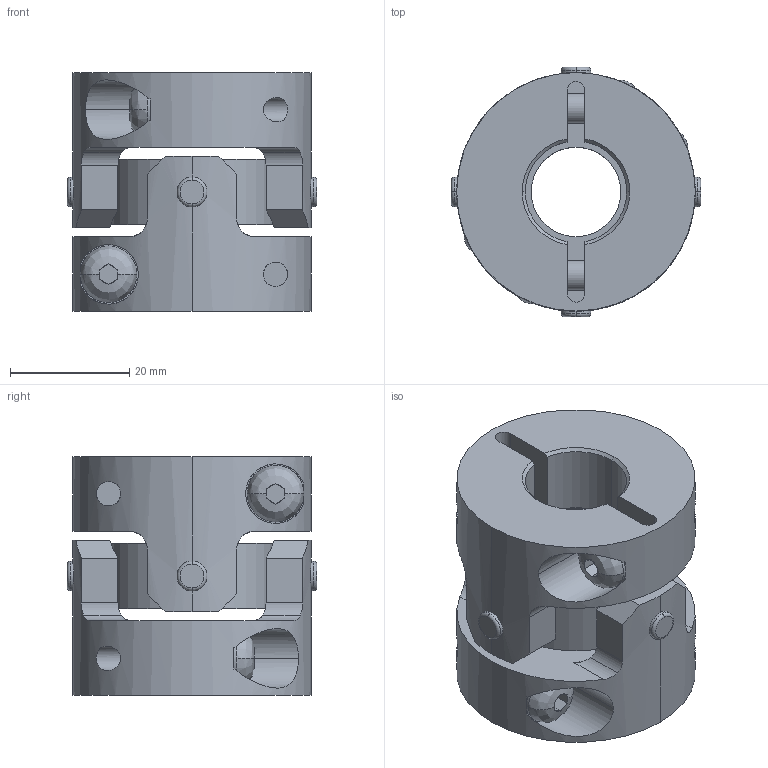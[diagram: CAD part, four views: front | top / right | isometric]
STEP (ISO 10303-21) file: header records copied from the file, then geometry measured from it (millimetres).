
FILE_DESCRIPTION((''),'2;1');
FILE_NAME('UA-40C-17×17.stp','2013-11-19T08:28:41',(''),(''),'AutoCAD STEP 2000i','AutoCAD 2000i',', , ');
FILE_SCHEMA(('CONFIG_CONTROL_DESIGN'));
Length unit declared in the file: millimetre
Products named in the file (8): UA-40C-18×18; 忣兜1; UA-4002-D18-1; BTN-M5; UA-4002-D18; UA-4002-D08-1; UA-4002-D08; UA40-SEN
Assembly tree (10 placements, depth 3):
  UA-40C-18×18
    忣兜1
    UA-4002-D18-1
      BTN-M5
    UA-4002-D18
      BTN-M5
    UA-4002-D08-1
      BTN-M5
    UA-4002-D08
      BTN-M5
    UA40-SEN
Bounding box: 41.81 x 41.81 x 40 mm (x, y, z)
Volume: 32316.1 mm3; surface area: 14833.2 mm2
Topology: 1 solids, 1 shells, 254 faces, 662 edges, 416 vertices
Faces by surface type: plane 126, cylinder 96, cone 16, bspline 8, torus 8
Entity records: 9783 total; most frequent: CARTESIAN_POINT 3355, DIRECTION 1328, ORIENTED_EDGE 1324, EDGE_CURVE 662, AXIS2_PLACEMENT_3D 513, VERTEX_POINT 416, VECTOR 302, LINE 302
